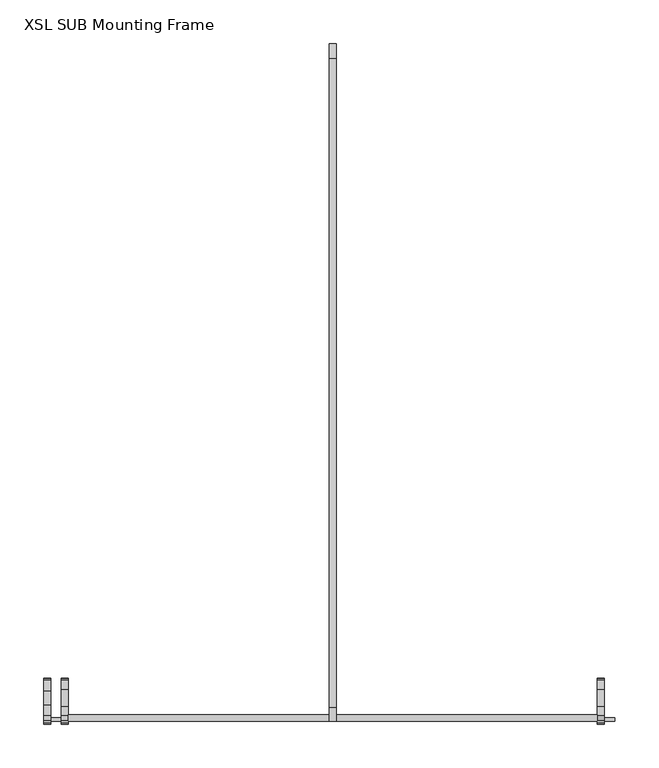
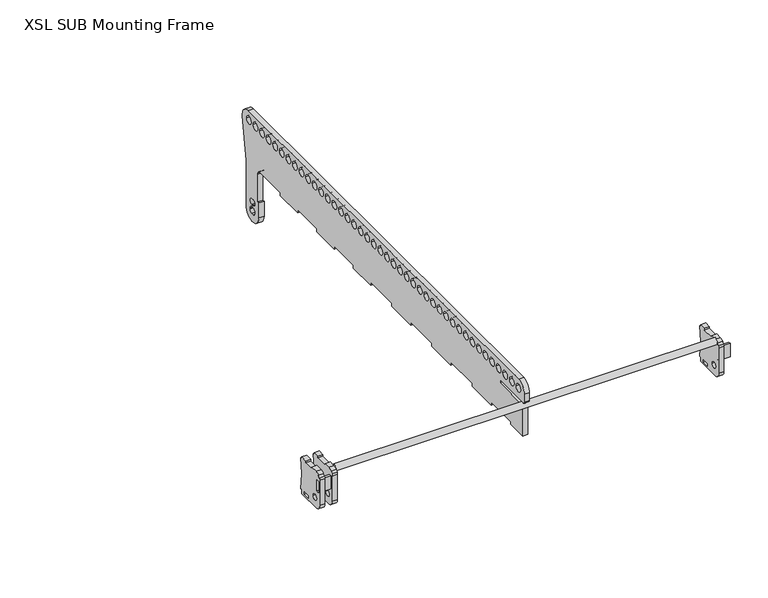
"""IFC4 building model written with IfcOpenShell, lengths in millimetres: proxy geometry, d&b SL-Series XSL SUB Mounting Frame : XSL SUB Mounting Frame."""

from ifc_helpers import new_model, si_unit, point, frame, frame_2d, origin, origin_2d, place, context, project, spatial, polyline, circle_curve, trimmed, segment, composite_curve, outline, extrude, source, transform, mapped, element, save


def xsl_sub_mounting_frame_72f05cd3(model_context):
    return source(origin(), model_context, "Body", "SweptSolid", [
        extrude(outline(composite_curve([segment(polyline([(35.7935659, 17.5), (38.6051042, -9.25), (36.5, -9.25), (36.5, -14.0)]), True, "CONTINUOUS"), segment(trimmed(circle_curve(frame_2d((34.5, -14.0)), 2.0), [point((36.5, -14.0))], [point((34.5, -16.0))], False, "CARTESIAN"), True, "CONTINUOUS"), segment(polyline([(34.5, -16.0), (-3.5, -16.0)]), True, "CONTINUOUS"), segment(trimmed(circle_curve(frame_2d((-3.5, -6.0)), 10.0), [point((-3.5, -16.0))], [point((-13.5, -6.0))], False, "CARTESIAN"), True, "CONTINUOUS"), segment(polyline([(-13.5, -6.0), (-13.5, 36.1014249)]), True, "CONTINUOUS"), segment(trimmed(circle_curve(frame_2d((-8.7786628, 36.1014249)), 4.7213372), [point((-13.5, 36.1014249))], [point((-12.3954169, 39.136242))], False, "CARTESIAN"), True, "CONTINUOUS"), segment(polyline([(-12.3954169, 39.136242), (-9.7353439, 42.3063936)]), True, "CONTINUOUS"), segment(trimmed(circle_curve(frame_2d((-3.9588864, 37.4593703)), 7.5406297), [point((-9.7353439, 42.3063936))], [point((-3.9588864, 45.0))], False, "CARTESIAN"), True, "CONTINUOUS"), segment(polyline([(-3.9588864, 45.0), (6.25, 45.0), (6.25, 42.25), (26.25, 42.25), (26.25, 45.0), (36.5, 45.0), (36.5, 42.25), (38.3948958, 42.25), (35.7935659, 17.5)]), True, "CONTINUOUS")], self_intersect=False), holes=[composite_curve([segment(trimmed(circle_curve(origin_2d(), 4.7), [point((-4.7, 0.0))], [point((4.7, 0.0))], True, "CARTESIAN"), True, "CONTINUOUS"), segment(trimmed(circle_curve(origin_2d(), 4.7), [point((4.7, 0.0))], [point((-4.7, 0.0))], True, "CARTESIAN"), True, "CONTINUOUS")], self_intersect=False), polyline([(29.6, -9.25), (18.6, -9.25), (18.6, -13.75), (29.6, -13.75), (29.6, -9.25)])]), frame((-309.5, 0.0, 0.0), z_axis=(1.0, 0.0, 0.0), x_axis=(0.0, 1.0, 0.0)), (0.0, 0.0, 1.0), 8.0),
        extrude(outline(composite_curve([segment(polyline([(35.7935659, 17.5), (38.6051042, -9.25), (36.5, -9.25), (36.5, -14.0)]), True, "CONTINUOUS"), segment(trimmed(circle_curve(frame_2d((34.5, -14.0)), 2.0), [point((36.5, -14.0))], [point((34.5, -16.0))], False, "CARTESIAN"), True, "CONTINUOUS"), segment(polyline([(34.5, -16.0), (-3.5, -16.0)]), True, "CONTINUOUS"), segment(trimmed(circle_curve(frame_2d((-3.5, -6.0)), 10.0), [point((-3.5, -16.0))], [point((-13.5, -6.0))], False, "CARTESIAN"), True, "CONTINUOUS"), segment(polyline([(-13.5, -6.0), (-13.5, 36.1014249)]), True, "CONTINUOUS"), segment(trimmed(circle_curve(frame_2d((-8.7786628, 36.1014249)), 4.7213372), [point((-13.5, 36.1014249))], [point((-12.3954169, 39.136242))], False, "CARTESIAN"), True, "CONTINUOUS"), segment(polyline([(-12.3954169, 39.136242), (-9.7353439, 42.3063936)]), True, "CONTINUOUS"), segment(trimmed(circle_curve(frame_2d((-3.9588864, 37.4593703)), 7.5406297), [point((-9.7353439, 42.3063936))], [point((-3.9588864, 45.0))], False, "CARTESIAN"), True, "CONTINUOUS"), segment(polyline([(-3.9588864, 45.0), (8.0, 45.0), (8.0, 42.25), (24.5, 42.25), (24.5, 45.0), (36.5, 45.0), (36.5, 42.25), (38.3948958, 42.25), (35.7935659, 17.5)]), True, "CONTINUOUS")], self_intersect=False), holes=[composite_curve([segment(trimmed(circle_curve(origin_2d(), 4.7), [point((-4.7, 0.0))], [point((4.7, 0.0))], True, "CARTESIAN"), True, "CONTINUOUS"), segment(trimmed(circle_curve(origin_2d(), 4.7), [point((4.7, 0.0))], [point((-4.7, 0.0))], True, "CARTESIAN"), True, "CONTINUOUS")], self_intersect=False), polyline([(-5.75, 32.0), (-10.25, 32.0), (-10.25, 13.5), (-5.75, 13.5), (-5.75, 32.0)]), polyline([(29.6, -9.25), (18.6, -9.25), (18.6, -13.75), (29.6, -13.75), (29.6, -9.25)])]), frame((-329.5, 0.0, 0.0), z_axis=(1.0, 0.0, 0.0), x_axis=(0.0, 1.0, 0.0)), (0.0, 0.0, 1.0), 8.0),
        extrude(outline(composite_curve([segment(polyline([(-10.0, 50.5), (-10.0, 63.6)]), True, "CONTINUOUS"), segment(trimmed(circle_curve(frame_2d((6.0, 63.6)), 16.0), [point((-10.0, 63.6))], [point((6.0, 79.6))], False, "CARTESIAN"), True, "CONTINUOUS"), segment(polyline([(6.0, 79.6), (746.0523511, 79.6)]), True, "CONTINUOUS"), segment(trimmed(circle_curve(frame_2d((746.0523511, 63.4075716)), 16.1924284), [point((746.0523511, 79.6))], [point((762.0741985, 61.0633998))], False, "CARTESIAN"), True, "CONTINUOUS"), segment(polyline([(762.0741985, 61.0633998), (752.0660383, -7.3399543)]), True, "CONTINUOUS"), segment(trimmed(circle_curve(frame_2d((781.75, -11.6830432)), 30.0), [point((752.0660383, -7.3399543))], [point((751.75, -11.6830432))], True, "CARTESIAN"), True, "CONTINUOUS"), segment(polyline([(751.75, -11.6830432), (751.75, -81.85)]), True, "CONTINUOUS"), segment(trimmed(circle_curve(frame_2d((734.25, -81.85)), 17.5), [point((751.75, -81.85))], [point((716.75, -81.85))], False, "CARTESIAN"), True, "CONTINUOUS"), segment(polyline([(716.75, -81.85), (716.75, -57.1), (719.75, -57.1), (719.75, -10.5703506)]), True, "CONTINUOUS"), segment(trimmed(circle_curve(frame_2d((713.6796494, -10.5703506)), 6.0703506), [point((719.75, -10.5703506))], [point((713.6796494, -4.5))], True, "CARTESIAN"), True, "CONTINUOUS"), segment(polyline([(713.6796494, -4.5), (658.25, -4.5), (658.25, -9.5), (611.25, -9.5), (611.25, -4.5), (558.25, -4.5), (558.25, -9.5), (511.25, -9.5), (511.25, -4.5), (458.25, -4.5), (458.25, -9.5), (411.25, -9.5), (411.25, -4.5), (353.25, -4.5), (353.25, -9.5), (301.25, -9.5), (301.25, -4.5), (243.25, -4.5), (243.25, -9.5), (191.25, -9.5), (191.25, -4.5), (133.25, -4.5), (133.25, -9.5), (81.25, -9.5), (81.25, -4.5), (27.0, -4.5), (27.0, -8.5), (-6.0, -8.5), (-6.0, 42.5), (56.5, 42.5), (56.5, 47.5), (-7.0, 47.5)]), True, "CONTINUOUS"), segment(trimmed(circle_curve(frame_2d((-7.0, 50.5)), 3.0), [point((-7.0, 47.5))], [point((-10.0, 50.5))], False, "CARTESIAN"), True, "CONTINUOUS")], self_intersect=False), holes=[composite_curve([segment(trimmed(circle_curve(frame_2d((24.4, 64.6)), 6.25), [point((18.15, 64.6))], [point((30.65, 64.6))], True, "CARTESIAN"), True, "CONTINUOUS"), segment(trimmed(circle_curve(frame_2d((24.4, 64.6)), 6.25), [point((30.65, 64.6))], [point((18.15, 64.6))], True, "CARTESIAN"), True, "CONTINUOUS")], self_intersect=False), composite_curve([segment(polyline([(733.0, -71.15), (736.5, -71.15)]), True, "CONTINUOUS"), segment(trimmed(circle_curve(frame_2d((736.5, -66.5)), 4.65), [point((736.5, -71.15))], [point((736.5, -61.85))], True, "CARTESIAN"), True, "CONTINUOUS"), segment(polyline([(736.5, -61.85), (733.0, -61.85)]), True, "CONTINUOUS"), segment(trimmed(circle_curve(frame_2d((733.0, -66.5)), 4.65), [point((733.0, -61.85))], [point((733.0, -71.15))], True, "CARTESIAN"), True, "CONTINUOUS")], self_intersect=False), composite_curve([segment(trimmed(circle_curve(frame_2d((733.0, -80.05)), 4.65), [point((733.0, -75.4))], [point((728.35, -80.05))], True, "CARTESIAN"), True, "CONTINUOUS"), segment(polyline([(728.35, -80.05), (728.35, -81.85)]), True, "CONTINUOUS"), segment(trimmed(circle_curve(frame_2d((733.0, -81.85)), 4.65), [point((728.35, -81.85))], [point((733.0, -86.5))], True, "CARTESIAN"), True, "CONTINUOUS"), segment(polyline([(733.0, -86.5), (736.5, -86.5)]), True, "CONTINUOUS"), segment(trimmed(circle_curve(frame_2d((736.5, -81.85)), 4.65), [point((736.5, -86.5))], [point((741.15, -81.85))], True, "CARTESIAN"), True, "CONTINUOUS"), segment(polyline([(741.15, -81.85), (741.15, -80.05)]), True, "CONTINUOUS"), segment(trimmed(circle_curve(frame_2d((736.5, -80.05)), 4.65), [point((741.15, -80.05))], [point((736.5, -75.4))], True, "CARTESIAN"), True, "CONTINUOUS"), segment(polyline([(736.5, -75.4), (733.0, -75.4)]), True, "CONTINUOUS")], self_intersect=False), composite_curve([segment(trimmed(circle_curve(frame_2d((6.4, 64.6)), 6.25), [point((0.15, 64.6))], [point((12.65, 64.6))], True, "CARTESIAN"), True, "CONTINUOUS"), segment(trimmed(circle_curve(frame_2d((6.4, 64.6)), 6.25), [point((12.65, 64.6))], [point((0.15, 64.6))], True, "CARTESIAN"), True, "CONTINUOUS")], self_intersect=False), composite_curve([segment(trimmed(circle_curve(frame_2d((42.4, 64.6)), 6.25), [point((36.15, 64.6))], [point((48.65, 64.6))], True, "CARTESIAN"), True, "CONTINUOUS"), segment(trimmed(circle_curve(frame_2d((42.4, 64.6)), 6.25), [point((48.65, 64.6))], [point((36.15, 64.6))], True, "CARTESIAN"), True, "CONTINUOUS")], self_intersect=False), composite_curve([segment(trimmed(circle_curve(frame_2d((60.4, 64.6)), 6.25), [point((54.15, 64.6))], [point((66.65, 64.6))], True, "CARTESIAN"), True, "CONTINUOUS"), segment(trimmed(circle_curve(frame_2d((60.4, 64.6)), 6.25), [point((66.65, 64.6))], [point((54.15, 64.6))], True, "CARTESIAN"), True, "CONTINUOUS")], self_intersect=False), composite_curve([segment(trimmed(circle_curve(frame_2d((78.4, 64.6)), 6.25), [point((72.15, 64.6))], [point((84.65, 64.6))], True, "CARTESIAN"), True, "CONTINUOUS"), segment(trimmed(circle_curve(frame_2d((78.4, 64.6)), 6.25), [point((84.65, 64.6))], [point((72.15, 64.6))], True, "CARTESIAN"), True, "CONTINUOUS")], self_intersect=False), composite_curve([segment(trimmed(circle_curve(frame_2d((96.4, 64.6)), 6.25), [point((90.15, 64.6))], [point((102.65, 64.6))], True, "CARTESIAN"), True, "CONTINUOUS"), segment(trimmed(circle_curve(frame_2d((96.4, 64.6)), 6.25), [point((102.65, 64.6))], [point((90.15, 64.6))], True, "CARTESIAN"), True, "CONTINUOUS")], self_intersect=False), composite_curve([segment(trimmed(circle_curve(frame_2d((114.4, 64.6)), 6.25), [point((108.15, 64.6))], [point((120.65, 64.6))], True, "CARTESIAN"), True, "CONTINUOUS"), segment(trimmed(circle_curve(frame_2d((114.4, 64.6)), 6.25), [point((120.65, 64.6))], [point((108.15, 64.6))], True, "CARTESIAN"), True, "CONTINUOUS")], self_intersect=False), composite_curve([segment(trimmed(circle_curve(frame_2d((132.4, 64.6)), 6.25), [point((126.15, 64.6))], [point((138.65, 64.6))], True, "CARTESIAN"), True, "CONTINUOUS"), segment(trimmed(circle_curve(frame_2d((132.4, 64.6)), 6.25), [point((138.65, 64.6))], [point((126.15, 64.6))], True, "CARTESIAN"), True, "CONTINUOUS")], self_intersect=False), composite_curve([segment(trimmed(circle_curve(frame_2d((150.4, 64.6)), 6.25), [point((144.15, 64.6))], [point((156.65, 64.6))], True, "CARTESIAN"), True, "CONTINUOUS"), segment(trimmed(circle_curve(frame_2d((150.4, 64.6)), 6.25), [point((156.65, 64.6))], [point((144.15, 64.6))], True, "CARTESIAN"), True, "CONTINUOUS")], self_intersect=False), composite_curve([segment(trimmed(circle_curve(frame_2d((168.4, 64.6)), 6.25), [point((162.15, 64.6))], [point((174.65, 64.6))], True, "CARTESIAN"), True, "CONTINUOUS"), segment(trimmed(circle_curve(frame_2d((168.4, 64.6)), 6.25), [point((174.65, 64.6))], [point((162.15, 64.6))], True, "CARTESIAN"), True, "CONTINUOUS")], self_intersect=False), composite_curve([segment(trimmed(circle_curve(frame_2d((186.4, 64.6)), 6.25), [point((180.15, 64.6))], [point((192.65, 64.6))], True, "CARTESIAN"), True, "CONTINUOUS"), segment(trimmed(circle_curve(frame_2d((186.4, 64.6)), 6.25), [point((192.65, 64.6))], [point((180.15, 64.6))], True, "CARTESIAN"), True, "CONTINUOUS")], self_intersect=False), composite_curve([segment(trimmed(circle_curve(frame_2d((204.4, 64.6)), 6.25), [point((198.15, 64.6))], [point((210.65, 64.6))], True, "CARTESIAN"), True, "CONTINUOUS"), segment(trimmed(circle_curve(frame_2d((204.4, 64.6)), 6.25), [point((210.65, 64.6))], [point((198.15, 64.6))], True, "CARTESIAN"), True, "CONTINUOUS")], self_intersect=False), composite_curve([segment(trimmed(circle_curve(frame_2d((222.4, 64.6)), 6.25), [point((216.15, 64.6))], [point((228.65, 64.6))], True, "CARTESIAN"), True, "CONTINUOUS"), segment(trimmed(circle_curve(frame_2d((222.4, 64.6)), 6.25), [point((228.65, 64.6))], [point((216.15, 64.6))], True, "CARTESIAN"), True, "CONTINUOUS")], self_intersect=False), composite_curve([segment(trimmed(circle_curve(frame_2d((240.4, 64.6)), 6.25), [point((234.15, 64.6))], [point((246.65, 64.6))], True, "CARTESIAN"), True, "CONTINUOUS"), segment(trimmed(circle_curve(frame_2d((240.4, 64.6)), 6.25), [point((246.65, 64.6))], [point((234.15, 64.6))], True, "CARTESIAN"), True, "CONTINUOUS")], self_intersect=False), composite_curve([segment(trimmed(circle_curve(frame_2d((258.4, 64.6)), 6.25), [point((252.15, 64.6))], [point((264.65, 64.6))], True, "CARTESIAN"), True, "CONTINUOUS"), segment(trimmed(circle_curve(frame_2d((258.4, 64.6)), 6.25), [point((264.65, 64.6))], [point((252.15, 64.6))], True, "CARTESIAN"), True, "CONTINUOUS")], self_intersect=False), composite_curve([segment(trimmed(circle_curve(frame_2d((276.4, 64.6)), 6.25), [point((270.15, 64.6))], [point((282.65, 64.6))], True, "CARTESIAN"), True, "CONTINUOUS"), segment(trimmed(circle_curve(frame_2d((276.4, 64.6)), 6.25), [point((282.65, 64.6))], [point((270.15, 64.6))], True, "CARTESIAN"), True, "CONTINUOUS")], self_intersect=False), composite_curve([segment(trimmed(circle_curve(frame_2d((294.4, 64.6)), 6.25), [point((288.15, 64.6))], [point((300.65, 64.6))], True, "CARTESIAN"), True, "CONTINUOUS"), segment(trimmed(circle_curve(frame_2d((294.4, 64.6)), 6.25), [point((300.65, 64.6))], [point((288.15, 64.6))], True, "CARTESIAN"), True, "CONTINUOUS")], self_intersect=False), composite_curve([segment(trimmed(circle_curve(frame_2d((312.4, 64.6)), 6.25), [point((306.15, 64.6))], [point((318.65, 64.6))], True, "CARTESIAN"), True, "CONTINUOUS"), segment(trimmed(circle_curve(frame_2d((312.4, 64.6)), 6.25), [point((318.65, 64.6))], [point((306.15, 64.6))], True, "CARTESIAN"), True, "CONTINUOUS")], self_intersect=False), composite_curve([segment(trimmed(circle_curve(frame_2d((330.4, 64.6)), 6.25), [point((324.15, 64.6))], [point((336.65, 64.6))], True, "CARTESIAN"), True, "CONTINUOUS"), segment(trimmed(circle_curve(frame_2d((330.4, 64.6)), 6.25), [point((336.65, 64.6))], [point((324.15, 64.6))], True, "CARTESIAN"), True, "CONTINUOUS")], self_intersect=False), composite_curve([segment(trimmed(circle_curve(frame_2d((348.4, 64.6)), 6.25), [point((342.15, 64.6))], [point((354.65, 64.6))], True, "CARTESIAN"), True, "CONTINUOUS"), segment(trimmed(circle_curve(frame_2d((348.4, 64.6)), 6.25), [point((354.65, 64.6))], [point((342.15, 64.6))], True, "CARTESIAN"), True, "CONTINUOUS")], self_intersect=False), composite_curve([segment(trimmed(circle_curve(frame_2d((366.4, 64.6)), 6.25), [point((360.15, 64.6))], [point((372.65, 64.6))], True, "CARTESIAN"), True, "CONTINUOUS"), segment(trimmed(circle_curve(frame_2d((366.4, 64.6)), 6.25), [point((372.65, 64.6))], [point((360.15, 64.6))], True, "CARTESIAN"), True, "CONTINUOUS")], self_intersect=False), composite_curve([segment(trimmed(circle_curve(frame_2d((384.4, 64.6)), 6.25), [point((378.15, 64.6))], [point((390.65, 64.6))], True, "CARTESIAN"), True, "CONTINUOUS"), segment(trimmed(circle_curve(frame_2d((384.4, 64.6)), 6.25), [point((390.65, 64.6))], [point((378.15, 64.6))], True, "CARTESIAN"), True, "CONTINUOUS")], self_intersect=False), composite_curve([segment(trimmed(circle_curve(frame_2d((402.4, 64.6)), 6.25), [point((396.15, 64.6))], [point((408.65, 64.6))], True, "CARTESIAN"), True, "CONTINUOUS"), segment(trimmed(circle_curve(frame_2d((402.4, 64.6)), 6.25), [point((408.65, 64.6))], [point((396.15, 64.6))], True, "CARTESIAN"), True, "CONTINUOUS")], self_intersect=False), composite_curve([segment(trimmed(circle_curve(frame_2d((420.4, 64.6)), 6.25), [point((414.15, 64.6))], [point((426.65, 64.6))], True, "CARTESIAN"), True, "CONTINUOUS"), segment(trimmed(circle_curve(frame_2d((420.4, 64.6)), 6.25), [point((426.65, 64.6))], [point((414.15, 64.6))], True, "CARTESIAN"), True, "CONTINUOUS")], self_intersect=False), composite_curve([segment(trimmed(circle_curve(frame_2d((438.4, 64.6)), 6.25), [point((432.15, 64.6))], [point((444.65, 64.6))], True, "CARTESIAN"), True, "CONTINUOUS"), segment(trimmed(circle_curve(frame_2d((438.4, 64.6)), 6.25), [point((444.65, 64.6))], [point((432.15, 64.6))], True, "CARTESIAN"), True, "CONTINUOUS")], self_intersect=False), composite_curve([segment(trimmed(circle_curve(frame_2d((456.4, 64.6)), 6.25), [point((450.15, 64.6))], [point((462.65, 64.6))], True, "CARTESIAN"), True, "CONTINUOUS"), segment(trimmed(circle_curve(frame_2d((456.4, 64.6)), 6.25), [point((462.65, 64.6))], [point((450.15, 64.6))], True, "CARTESIAN"), True, "CONTINUOUS")], self_intersect=False), composite_curve([segment(trimmed(circle_curve(frame_2d((474.4, 64.6)), 6.25), [point((468.15, 64.6))], [point((480.65, 64.6))], True, "CARTESIAN"), True, "CONTINUOUS"), segment(trimmed(circle_curve(frame_2d((474.4, 64.6)), 6.25), [point((480.65, 64.6))], [point((468.15, 64.6))], True, "CARTESIAN"), True, "CONTINUOUS")], self_intersect=False), composite_curve([segment(trimmed(circle_curve(frame_2d((492.4, 64.6)), 6.25), [point((486.15, 64.6))], [point((498.65, 64.6))], True, "CARTESIAN"), True, "CONTINUOUS"), segment(trimmed(circle_curve(frame_2d((492.4, 64.6)), 6.25), [point((498.65, 64.6))], [point((486.15, 64.6))], True, "CARTESIAN"), True, "CONTINUOUS")], self_intersect=False), composite_curve([segment(trimmed(circle_curve(frame_2d((510.4, 64.6)), 6.25), [point((504.15, 64.6))], [point((516.65, 64.6))], True, "CARTESIAN"), True, "CONTINUOUS"), segment(trimmed(circle_curve(frame_2d((510.4, 64.6)), 6.25), [point((516.65, 64.6))], [point((504.15, 64.6))], True, "CARTESIAN"), True, "CONTINUOUS")], self_intersect=False), composite_curve([segment(trimmed(circle_curve(frame_2d((528.4, 64.6)), 6.25), [point((522.15, 64.6))], [point((534.65, 64.6))], True, "CARTESIAN"), True, "CONTINUOUS"), segment(trimmed(circle_curve(frame_2d((528.4, 64.6)), 6.25), [point((534.65, 64.6))], [point((522.15, 64.6))], True, "CARTESIAN"), True, "CONTINUOUS")], self_intersect=False), composite_curve([segment(trimmed(circle_curve(frame_2d((546.4, 64.6)), 6.25), [point((540.15, 64.6))], [point((552.65, 64.6))], True, "CARTESIAN"), True, "CONTINUOUS"), segment(trimmed(circle_curve(frame_2d((546.4, 64.6)), 6.25), [point((552.65, 64.6))], [point((540.15, 64.6))], True, "CARTESIAN"), True, "CONTINUOUS")], self_intersect=False), composite_curve([segment(trimmed(circle_curve(frame_2d((564.4, 64.6)), 6.25), [point((558.15, 64.6))], [point((570.65, 64.6))], True, "CARTESIAN"), True, "CONTINUOUS"), segment(trimmed(circle_curve(frame_2d((564.4, 64.6)), 6.25), [point((570.65, 64.6))], [point((558.15, 64.6))], True, "CARTESIAN"), True, "CONTINUOUS")], self_intersect=False), composite_curve([segment(trimmed(circle_curve(frame_2d((582.4, 64.6)), 6.25), [point((576.15, 64.6))], [point((588.65, 64.6))], True, "CARTESIAN"), True, "CONTINUOUS"), segment(trimmed(circle_curve(frame_2d((582.4, 64.6)), 6.25), [point((588.65, 64.6))], [point((576.15, 64.6))], True, "CARTESIAN"), True, "CONTINUOUS")], self_intersect=False), composite_curve([segment(trimmed(circle_curve(frame_2d((600.4, 64.6)), 6.25), [point((594.15, 64.6))], [point((606.65, 64.6))], True, "CARTESIAN"), True, "CONTINUOUS"), segment(trimmed(circle_curve(frame_2d((600.4, 64.6)), 6.25), [point((606.65, 64.6))], [point((594.15, 64.6))], True, "CARTESIAN"), True, "CONTINUOUS")], self_intersect=False), composite_curve([segment(trimmed(circle_curve(frame_2d((618.4, 64.6)), 6.25), [point((612.15, 64.6))], [point((624.65, 64.6))], True, "CARTESIAN"), True, "CONTINUOUS"), segment(trimmed(circle_curve(frame_2d((618.4, 64.6)), 6.25), [point((624.65, 64.6))], [point((612.15, 64.6))], True, "CARTESIAN"), True, "CONTINUOUS")], self_intersect=False), composite_curve([segment(trimmed(circle_curve(frame_2d((636.4, 64.6)), 6.25), [point((630.15, 64.6))], [point((642.65, 64.6))], True, "CARTESIAN"), True, "CONTINUOUS"), segment(trimmed(circle_curve(frame_2d((636.4, 64.6)), 6.25), [point((642.65, 64.6))], [point((630.15, 64.6))], True, "CARTESIAN"), True, "CONTINUOUS")], self_intersect=False), composite_curve([segment(trimmed(circle_curve(frame_2d((654.4, 64.6)), 6.25), [point((648.15, 64.6))], [point((660.65, 64.6))], True, "CARTESIAN"), True, "CONTINUOUS"), segment(trimmed(circle_curve(frame_2d((654.4, 64.6)), 6.25), [point((660.65, 64.6))], [point((648.15, 64.6))], True, "CARTESIAN"), True, "CONTINUOUS")], self_intersect=False), composite_curve([segment(trimmed(circle_curve(frame_2d((672.4, 64.6)), 6.25), [point((666.15, 64.6))], [point((678.65, 64.6))], True, "CARTESIAN"), True, "CONTINUOUS"), segment(trimmed(circle_curve(frame_2d((672.4, 64.6)), 6.25), [point((678.65, 64.6))], [point((666.15, 64.6))], True, "CARTESIAN"), True, "CONTINUOUS")], self_intersect=False), composite_curve([segment(trimmed(circle_curve(frame_2d((690.4, 64.6)), 6.25), [point((684.15, 64.6))], [point((696.65, 64.6))], True, "CARTESIAN"), True, "CONTINUOUS"), segment(trimmed(circle_curve(frame_2d((690.4, 64.6)), 6.25), [point((696.65, 64.6))], [point((684.15, 64.6))], True, "CARTESIAN"), True, "CONTINUOUS")], self_intersect=False), composite_curve([segment(trimmed(circle_curve(frame_2d((708.4, 64.6)), 6.25), [point((702.15, 64.6))], [point((714.65, 64.6))], True, "CARTESIAN"), True, "CONTINUOUS"), segment(trimmed(circle_curve(frame_2d((708.4, 64.6)), 6.25), [point((714.65, 64.6))], [point((702.15, 64.6))], True, "CARTESIAN"), True, "CONTINUOUS")], self_intersect=False), composite_curve([segment(trimmed(circle_curve(frame_2d((726.4, 64.6)), 6.25), [point((720.15, 64.6))], [point((732.65, 64.6))], True, "CARTESIAN"), True, "CONTINUOUS"), segment(trimmed(circle_curve(frame_2d((726.4, 64.6)), 6.25), [point((732.65, 64.6))], [point((720.15, 64.6))], True, "CARTESIAN"), True, "CONTINUOUS")], self_intersect=False), composite_curve([segment(trimmed(circle_curve(frame_2d((744.4, 64.6)), 6.25), [point((738.15, 64.6))], [point((750.65, 64.6))], True, "CARTESIAN"), True, "CONTINUOUS"), segment(trimmed(circle_curve(frame_2d((744.4, 64.6)), 6.25), [point((750.65, 64.6))], [point((738.15, 64.6))], True, "CARTESIAN"), True, "CONTINUOUS")], self_intersect=False)]), frame((-4.0, 0.0, 0.0), z_axis=(1.0, 0.0, 0.0), x_axis=(0.0, 1.0, 0.0)), (0.0, 0.0, 1.0), 8.0),
        extrude(outline(composite_curve([segment(polyline([(35.7935659, 17.5), (38.6051042, -9.25), (36.5, -9.25), (36.5, -14.0)]), True, "CONTINUOUS"), segment(trimmed(circle_curve(frame_2d((34.5, -14.0)), 2.0), [point((36.5, -14.0))], [point((34.5, -16.0))], False, "CARTESIAN"), True, "CONTINUOUS"), segment(polyline([(34.5, -16.0), (-3.5, -16.0)]), True, "CONTINUOUS"), segment(trimmed(circle_curve(frame_2d((-3.5, -6.0)), 10.0), [point((-3.5, -16.0))], [point((-13.5, -6.0))], False, "CARTESIAN"), True, "CONTINUOUS"), segment(polyline([(-13.5, -6.0), (-13.5, 36.1014249)]), True, "CONTINUOUS"), segment(trimmed(circle_curve(frame_2d((-8.7786628, 36.1014249)), 4.7213372), [point((-13.5, 36.1014249))], [point((-12.3954169, 39.136242))], False, "CARTESIAN"), True, "CONTINUOUS"), segment(polyline([(-12.3954169, 39.136242), (-9.7353439, 42.3063936)]), True, "CONTINUOUS"), segment(trimmed(circle_curve(frame_2d((-3.9588864, 37.4593703)), 7.5406297), [point((-9.7353439, 42.3063936))], [point((-3.9588864, 45.0))], False, "CARTESIAN"), True, "CONTINUOUS"), segment(polyline([(-3.9588864, 45.0), (6.25, 45.0), (6.25, 42.25), (26.25, 42.25), (26.25, 45.0), (36.5, 45.0), (36.5, 42.25), (38.3948958, 42.25), (35.7935659, 17.5)]), True, "CONTINUOUS")], self_intersect=False), holes=[composite_curve([segment(trimmed(circle_curve(origin_2d(), 4.7), [point((-4.7, 0.0))], [point((4.7, 0.0))], True, "CARTESIAN"), True, "CONTINUOUS"), segment(trimmed(circle_curve(origin_2d(), 4.7), [point((4.7, 0.0))], [point((-4.7, 0.0))], True, "CARTESIAN"), True, "CONTINUOUS")], self_intersect=False), polyline([(29.6, -9.25), (18.6, -9.25), (18.6, -13.75), (29.6, -13.75), (29.6, -9.25)])]), frame((301.5, 0.0, 0.0), z_axis=(1.0, 0.0, 0.0), x_axis=(0.0, 1.0, 0.0)), (0.0, 0.0, 1.0), 8.0),
        extrude(outline(composite_curve([segment(trimmed(circle_curve(frame_2d((-3.0, 40.5)), 3.0), [point((-3.0, 43.5))], [point((-6.0, 40.5))], True, "CARTESIAN"), True, "CONTINUOUS"), segment(polyline([(-6.0, 40.5), (-10.0, 40.5)]), True, "CONTINUOUS"), segment(trimmed(circle_curve(frame_2d((-3.0, 40.5)), 7.0), [point((-10.0, 40.5))], [point((-3.0, 47.5))], False, "CARTESIAN"), True, "CONTINUOUS"), segment(polyline([(-3.0, 47.5), (-3.0, 43.5)]), True, "CONTINUOUS")], self_intersect=False)), frame((-301.5, 0.0, 0.0), z_axis=(1.0, 0.0, 0.0), x_axis=(0.0, 1.0, 0.0)), (0.0, 0.0, 1.0), 603.0),
        extrude(outline(polyline([(-321.5, -6.0), (-309.5, -6.0), (-309.5, -10.0), (-321.5, -10.0), (-321.5, -6.0)])), frame((0.0, 0.0, 12.75), z_axis=(0.0, 0.0, 1.0), x_axis=(1.0, 0.0, 0.0)), (0.0, 0.0, 1.0), 22.0),
        extrude(outline(polyline([(309.5, -6.0), (321.5, -6.0), (321.5, -10.0), (309.5, -10.0), (309.5, -6.0)])), frame((0.0, 0.0, 12.75), z_axis=(0.0, 0.0, 1.0), x_axis=(1.0, 0.0, 0.0)), (0.0, 0.0, 1.0), 22.0),
    ])


if __name__ == "__main__":
    model = new_model("IFC4")
    model_context = context("Model", 3, world=origin())
    ifc_project = project(units=[si_unit("LENGTHUNIT", "METRE", prefix="MILLI")], contexts=[model_context])
    site = spatial("IfcSite", under=ifc_project)
    building = spatial("IfcBuilding", under=site)
    placement = place(None, origin())
    xsl_sub_mounting_frame_shape = xsl_sub_mounting_frame_72f05cd3(model_context)
    element("IfcBuildingElementProxy", 1, Name="d&b SL-Series XSL SUB Mounting Frame : XSL SUB Mounting Frame", ObjectType="d&b SL-Series XSL SUB Mounting Frame : XSL SUB Mounting Frame", at=placement, inside=building, context=model_context, shape_type="MappedRepresentation", body=[
        mapped(xsl_sub_mounting_frame_shape, transform((0.0, 0.0, 0.0), x_axis=(1.0, 0.0, 0.0), y_axis=(0.0, 1.0, 0.0), z_axis=(0.0, 0.0, 1.0))),
    ])
    save(model, "model.ifc")
